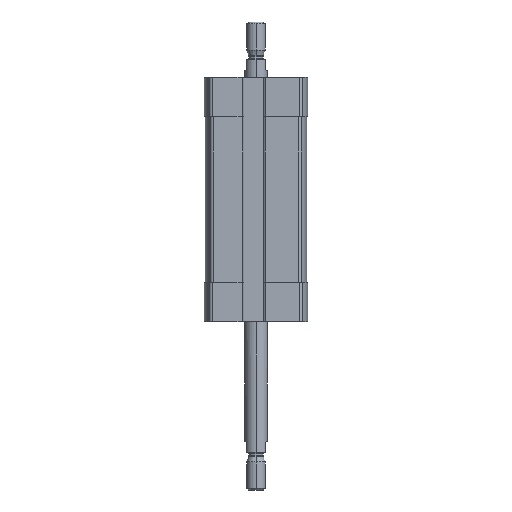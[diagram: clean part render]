
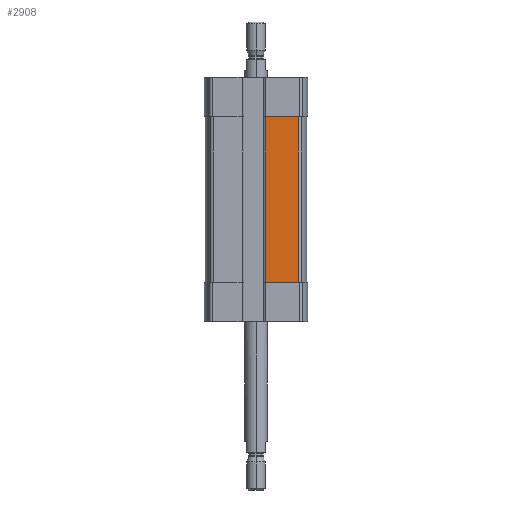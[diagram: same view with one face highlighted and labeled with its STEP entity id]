
A CAD part, left-side view. The second image highlights one B-rep face of the part: STEP entity #2908.
In plain terms, the highlighted planar face has unit normal (-1, 0, 0).
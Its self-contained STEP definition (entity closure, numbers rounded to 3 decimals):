
#167 = CARTESIAN_POINT ( 'NONE',  ( -13.5, -2.5, -10.5 ) ) ;
#612 = CARTESIAN_POINT ( 'NONE',  ( -13.5, -11.329, -54.5 ) ) ;
#841 = ORIENTED_EDGE ( 'NONE', *, *, #10122, .F. ) ;
#878 = VECTOR ( 'NONE', #10658, 1000. ) ;
#1050 = LINE ( 'NONE', #167, #10377 ) ;
#1221 = VECTOR ( 'NONE', #7621, 1000. ) ;
#1596 = EDGE_CURVE ( 'NONE', #7505, #4653, #5229, .T. ) ;
#1695 = ORIENTED_EDGE ( 'NONE', *, *, #1596, .T. ) ;
#1850 = CARTESIAN_POINT ( 'NONE',  ( -13.5, -11.329, -10.5 ) ) ;
#2277 = LINE ( 'NONE', #8519, #1221 ) ;
#2508 = CARTESIAN_POINT ( 'NONE',  ( -13.5, -11.329, -54.5 ) ) ;
#2777 = CARTESIAN_POINT ( 'NONE',  ( -13.5, -2.5, -54.5 ) ) ;
#2795 = DIRECTION ( 'NONE',  ( 0., 0., 1. ) ) ;
#2908 = ADVANCED_FACE ( 'NONE', ( #6355 ), #8977, .T. ) ;
#3091 = AXIS2_PLACEMENT_3D ( 'NONE', #9885, #10773, #2795 ) ;
#3400 = EDGE_CURVE ( 'NONE', #4815, #5949, #11049, .T. ) ;
#3975 = EDGE_LOOP ( 'NONE', ( #841, #7329, #4032, #1695 ) ) ;
#4032 = ORIENTED_EDGE ( 'NONE', *, *, #7823, .T. ) ;
#4653 = VERTEX_POINT ( 'NONE', #1850 ) ;
#4815 = VERTEX_POINT ( 'NONE', #11069 ) ;
#5229 = LINE ( 'NONE', #2508, #878 ) ;
#5949 = VERTEX_POINT ( 'NONE', #8830 ) ;
#6355 = FACE_OUTER_BOUND ( 'NONE', #3975, .T. ) ;
#6474 = DIRECTION ( 'NONE',  ( 0., -1., 0. ) ) ;
#7329 = ORIENTED_EDGE ( 'NONE', *, *, #3400, .F. ) ;
#7505 = VERTEX_POINT ( 'NONE', #612 ) ;
#7621 = DIRECTION ( 'NONE',  ( 0., -1., 0. ) ) ;
#7823 = EDGE_CURVE ( 'NONE', #4815, #7505, #2277, .T. ) ;
#8519 = CARTESIAN_POINT ( 'NONE',  ( -13.5, -2.5, -54.5 ) ) ;
#8830 = CARTESIAN_POINT ( 'NONE',  ( -13.5, -2.5, -10.5 ) ) ;
#8953 = VECTOR ( 'NONE', #10927, 1000. ) ;
#8977 = PLANE ( 'NONE',  #3091 ) ;
#9885 = CARTESIAN_POINT ( 'NONE',  ( -13.5, -2.5, -54.5 ) ) ;
#10122 = EDGE_CURVE ( 'NONE', #5949, #4653, #1050, .T. ) ;
#10377 = VECTOR ( 'NONE', #6474, 1000. ) ;
#10658 = DIRECTION ( 'NONE',  ( 0., 0., 1. ) ) ;
#10773 = DIRECTION ( 'NONE',  ( -1., 0., 0. ) ) ;
#10927 = DIRECTION ( 'NONE',  ( 0., 0., 1. ) ) ;
#11049 = LINE ( 'NONE', #2777, #8953 ) ;
#11069 = CARTESIAN_POINT ( 'NONE',  ( -13.5, -2.5, -54.5 ) ) ;
